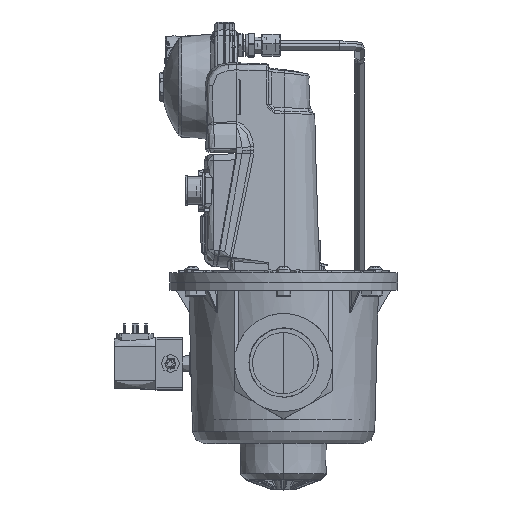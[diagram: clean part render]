
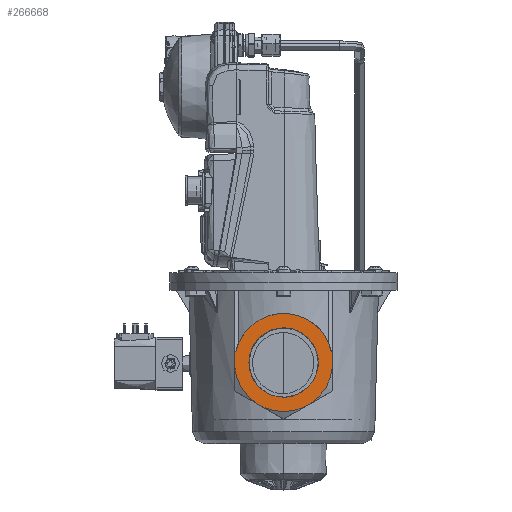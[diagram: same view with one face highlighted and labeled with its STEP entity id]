
A CAD part, top view. The second image highlights one B-rep face of the part: STEP entity #266668.
In plain terms, the highlighted planar face has unit normal (0, 0, 1) as drawn and (-1, 0, 0) by its records, which use the part's own axes.
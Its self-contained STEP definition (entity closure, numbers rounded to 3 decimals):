
#2362 = CARTESIAN_POINT ( 'NONE',  ( -93., -55.842, -40. ) ) ;
#11283 = CARTESIAN_POINT ( 'NONE',  ( -93., -55.842, -38.937 ) ) ;
#15800 = CARTESIAN_POINT ( 'NONE',  ( -93., -55.842, 36.85 ) ) ;
#16733 = EDGE_CURVE ( 'NONE', #218164, #164441, #123394, .T. ) ;
#17716 = LINE ( 'NONE', #355761, #252653 ) ;
#20796 = CARTESIAN_POINT ( 'NONE',  ( -93., -87.35, -38.712 ) ) ;
#23256 = CARTESIAN_POINT ( 'NONE',  ( -93., -100.946, 17.739 ) ) ;
#23409 = VECTOR ( 'NONE', #230149, 1000. ) ;
#36913 = ORIENTED_EDGE ( 'NONE', *, *, #269424, .F. ) ;
#45062 = PLANE ( 'NONE',  #278049 ) ;
#47696 = CARTESIAN_POINT ( 'NONE',  ( -93., -55.842, -40.15 ) ) ;
#50181 = ORIENTED_EDGE ( 'NONE', *, *, #254914, .F. ) ;
#54030 = CARTESIAN_POINT ( 'NONE',  ( -93., -105.085, 0. ) ) ;
#63361 = ORIENTED_EDGE ( 'NONE', *, *, #189643, .T. ) ;
#72933 = VECTOR ( 'NONE', #323882, 1000. ) ;
#80770 = VECTOR ( 'NONE', #308134, 1000. ) ;
#83666 = CARTESIAN_POINT ( 'NONE',  ( -93., -67.611, -40. ) ) ;
#83881 = CARTESIAN_POINT ( 'NONE',  ( -93., -100.946, -17.739 ) ) ;
#83937 = ORIENTED_EDGE ( 'NONE', *, *, #218373, .F. ) ;
#84825 = VERTEX_POINT ( 'NONE', #11283 ) ;
#84828 = CARTESIAN_POINT ( 'NONE',  ( -93., -100.946, -17.739 ) ) ;
#88171 = CARTESIAN_POINT ( 'NONE',  ( -93., -87.35, 38.712 ) ) ;
#94955 = CARTESIAN_POINT ( 'NONE',  ( -93., -100.946, -17.739 ) ) ;
#104876 = LINE ( 'NONE', #15800, #23409 ) ;
#105266 =( BOUNDED_CURVE ( )  B_SPLINE_CURVE ( 2, ( #204257, #20796, #83666 ),
 .UNSPECIFIED., .F., .F. ) 
 B_SPLINE_CURVE_WITH_KNOTS ( ( 3, 3 ),
 ( 0., 0.037 ),
 .UNSPECIFIED. ) 
 CURVE ( )  GEOMETRIC_REPRESENTATION_ITEM ( )  RATIONAL_B_SPLINE_CURVE ( ( 0.862, 0.822, 0.975 ) ) 
 REPRESENTATION_ITEM ( '' )  );
#107486 =( BOUNDED_CURVE ( )  B_SPLINE_CURVE ( 2, ( #23256, #390592, #54030, #268473, #84828 ),
 .UNSPECIFIED., .F., .F. ) 
 B_SPLINE_CURVE_WITH_KNOTS ( ( 3, 2, 3 ),
 ( 0., 0.018, 0.037 ),
 .UNSPECIFIED. ) 
 CURVE ( )  GEOMETRIC_REPRESENTATION_ITEM ( )  RATIONAL_B_SPLINE_CURVE ( ( 0.877, 0.912, 1., 0.912, 0.877 ) ) 
 REPRESENTATION_ITEM ( '' )  );
#107903 = CARTESIAN_POINT ( 'NONE',  ( -93., -55.842, 40. ) ) ;
#110669 = CARTESIAN_POINT ( 'NONE',  ( -93., -109.035, 44. ) ) ;
#123095 = DIRECTION ( 'NONE',  ( 1., 0., 0. ) ) ;
#123394 = LINE ( 'NONE', #141092, #276917 ) ;
#123640 = VERTEX_POINT ( 'NONE', #83881 ) ;
#128926 = CIRCLE ( 'NONE', #363912, 28.328 ) ;
#133246 = ORIENTED_EDGE ( 'NONE', *, *, #369536, .F. ) ;
#141092 = CARTESIAN_POINT ( 'NONE',  ( -93., -109.035, 40. ) ) ;
#141494 = DIRECTION ( 'NONE',  ( 1., 0., 0. ) ) ;
#143892 = ORIENTED_EDGE ( 'NONE', *, *, #305621, .F. ) ;
#145054 = CARTESIAN_POINT ( 'NONE',  ( -93., -55.842, 38.937 ) ) ;
#146837 = VERTEX_POINT ( 'NONE', #2362 ) ;
#154215 = DIRECTION ( 'NONE',  ( 1., 0., 0. ) ) ;
#160888 = EDGE_CURVE ( 'NONE', #269900, #146837, #343110, .T. ) ;
#162414 = CIRCLE ( 'NONE', #246652, 40. ) ;
#164441 = VERTEX_POINT ( 'NONE', #176495 ) ;
#169389 = ORIENTED_EDGE ( 'NONE', *, *, #202531, .F. ) ;
#170337 = VECTOR ( 'NONE', #243595, 1000. ) ;
#176495 = CARTESIAN_POINT ( 'NONE',  ( -93., -67.611, 40. ) ) ;
#181459 = ORIENTED_EDGE ( 'NONE', *, *, #16733, .F. ) ;
#189643 = EDGE_CURVE ( 'NONE', #84825, #146837, #216676, .T. ) ;
#196259 = VERTEX_POINT ( 'NONE', #145054 ) ;
#202531 = EDGE_CURVE ( 'NONE', #222192, #209140, #17716, .T. ) ;
#204257 = CARTESIAN_POINT ( 'NONE',  ( -93., -98.336, -22.261 ) ) ;
#207050 = CARTESIAN_POINT ( 'NONE',  ( -93., -100.946, 17.739 ) ) ;
#209140 = VERTEX_POINT ( 'NONE', #207050 ) ;
#212735 = CARTESIAN_POINT ( 'NONE',  ( -93., -109.035, -40. ) ) ;
#216676 = LINE ( 'NONE', #47696, #72933 ) ;
#217144 = ORIENTED_EDGE ( 'NONE', *, *, #218977, .F. ) ;
#218164 = VERTEX_POINT ( 'NONE', #107903 ) ;
#218373 = EDGE_CURVE ( 'NONE', #220838, #269900, #105266, .T. ) ;
#218977 = EDGE_CURVE ( 'NONE', #164441, #222192, #343600, .T. ) ;
#220838 = VERTEX_POINT ( 'NONE', #224007 ) ;
#222192 = VERTEX_POINT ( 'NONE', #234995 ) ;
#224007 = CARTESIAN_POINT ( 'NONE',  ( -93., -98.336, -22.261 ) ) ;
#230149 = DIRECTION ( 'NONE',  ( 0., 0., 1. ) ) ;
#233522 = DIRECTION ( 'NONE',  ( 0., -1., 0. ) ) ;
#234995 = CARTESIAN_POINT ( 'NONE',  ( -93., -98.336, 22.261 ) ) ;
#236215 = ORIENTED_EDGE ( 'NONE', *, *, #160888, .F. ) ;
#243595 = DIRECTION ( 'NONE',  ( 0., 1., 0. ) ) ;
#243845 = LINE ( 'NONE', #94955, #80770 ) ;
#246652 = AXIS2_PLACEMENT_3D ( 'NONE', #337938, #154215, #368729 ) ;
#252653 = VECTOR ( 'NONE', #324921, 1000. ) ;
#254914 = EDGE_CURVE ( 'NONE', #123640, #220838, #243845, .T. ) ;
#266668 = ADVANCED_FACE ( 'NONE', ( #342850, #352553 ), #45062, .F. ) ;
#268473 = CARTESIAN_POINT ( 'NONE',  ( -93., -105.085, -9.352 ) ) ;
#269424 = EDGE_CURVE ( 'NONE', #196259, #218164, #104876, .T. ) ;
#269900 = VERTEX_POINT ( 'NONE', #315589 ) ;
#276917 = VECTOR ( 'NONE', #233522, 1000. ) ;
#278049 = AXIS2_PLACEMENT_3D ( 'NONE', #110669, #141494, #356048 ) ;
#283705 = ORIENTED_EDGE ( 'NONE', *, *, #385219, .T. ) ;
#290914 = VERTEX_POINT ( 'NONE', #343348 ) ;
#302634 = CARTESIAN_POINT ( 'NONE',  ( -93., -67.611, 40. ) ) ;
#305621 = EDGE_CURVE ( 'NONE', #209140, #123640, #107486, .T. ) ;
#306808 = CARTESIAN_POINT ( 'NONE',  ( -93., -65., 0. ) ) ;
#308134 = DIRECTION ( 'NONE',  ( 0., 0.5, -0.866 ) ) ;
#315589 = CARTESIAN_POINT ( 'NONE',  ( -93., -67.611, -40. ) ) ;
#323882 = DIRECTION ( 'NONE',  ( 0., 0., -1. ) ) ;
#324921 = DIRECTION ( 'NONE',  ( 0., -0.5, -0.866 ) ) ;
#337699 = DIRECTION ( 'NONE',  ( 0., 0., -1. ) ) ;
#337938 = CARTESIAN_POINT ( 'NONE',  ( -93., -65., 0. ) ) ;
#342850 = FACE_BOUND ( 'NONE', #396968, .T. ) ;
#343110 = LINE ( 'NONE', #212735, #170337 ) ;
#343348 = CARTESIAN_POINT ( 'NONE',  ( -93., -65., -28.328 ) ) ;
#343600 =( BOUNDED_CURVE ( )  B_SPLINE_CURVE ( 2, ( #302634, #88171, #364369 ),
 .UNSPECIFIED., .F., .F. ) 
 B_SPLINE_CURVE_WITH_KNOTS ( ( 3, 3 ),
 ( 0., 0.037 ),
 .UNSPECIFIED. ) 
 CURVE ( )  GEOMETRIC_REPRESENTATION_ITEM ( )  RATIONAL_B_SPLINE_CURVE ( ( 0.975, 0.822, 0.862 ) ) 
 REPRESENTATION_ITEM ( '' )  );
#352553 = FACE_OUTER_BOUND ( 'NONE', #390655, .T. ) ;
#355761 = CARTESIAN_POINT ( 'NONE',  ( -93., -98.336, 22.261 ) ) ;
#356048 = DIRECTION ( 'NONE',  ( 0., 0., -1. ) ) ;
#363912 = AXIS2_PLACEMENT_3D ( 'NONE', #306808, #123095, #337699 ) ;
#364369 = CARTESIAN_POINT ( 'NONE',  ( -93., -98.336, 22.261 ) ) ;
#368729 = DIRECTION ( 'NONE',  ( 0., 0., 1. ) ) ;
#369536 = EDGE_CURVE ( 'NONE', #84825, #196259, #162414, .T. ) ;
#385219 = EDGE_CURVE ( 'NONE', #290914, #290914, #128926, .T. ) ;
#390592 = CARTESIAN_POINT ( 'NONE',  ( -93., -105.085, 9.352 ) ) ;
#390655 = EDGE_LOOP ( 'NONE', ( #36913, #133246, #63361, #236215, #83937, #50181, #143892, #169389, #217144, #181459 ) ) ;
#396968 = EDGE_LOOP ( 'NONE', ( #283705 ) ) ;
